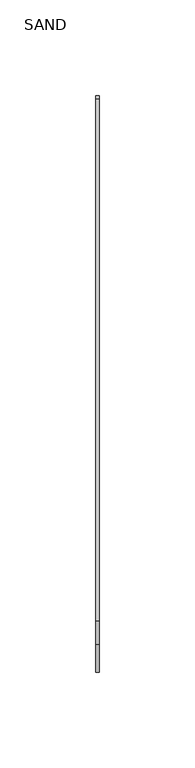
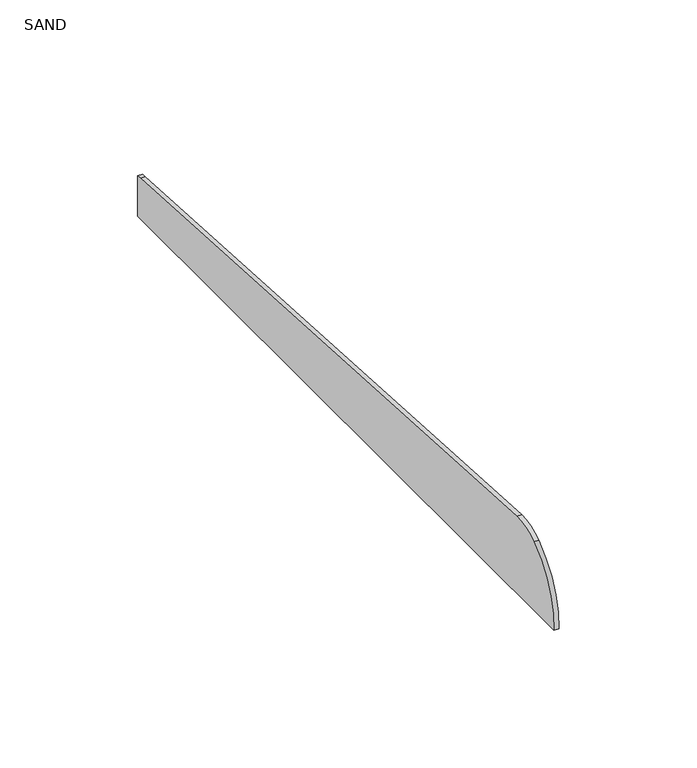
"""IFC4 building model written with IfcOpenShell, lengths in millimetres: proxy geometry, PORTOBELLO - BORDA MONOLITH POOL SAND 30X60 EXT BOLD : SAND."""

from ifc_helpers import new_model, si_unit, point, frame, frame_2d, origin, place, context, project, spatial, polyline, circle_curve, trimmed, segment, composite_curve, outline, extrude, source, transform, mapped, element, save


def sand_0a74e251(model_context):
    return source(origin(), model_context, "Body", "SweptSolid", [
        extrude(outline(composite_curve([segment(trimmed(circle_curve(frame_2d((36.3042136, -16.7149341)), 36.3269503), [point((0.0, -18.0000002))], [point((14.4065842, 12.2702543))], False, "CARTESIAN"), True, "CONTINUOUS"), segment(trimmed(circle_curve(frame_2d((25.7546622, -2.7508318)), 18.8258307), [point((14.4065842, 12.2702543))], [point((26.8584705, 16.0426114))], False, "CARTESIAN"), True, "CONTINUOUS"), segment(polyline([(26.8584705, 16.0426114), (300.0, 0.0), (302.0, 0.0), (302.0, -18.0000002), (0.0, -18.0000002)]), True, "CONTINUOUS")], self_intersect=False)), frame((1758.5198785, 0.0, 0.0), z_axis=(1.0, 0.0, 0.0), x_axis=(0.0, 1.0, 0.0)), (0.0, 0.0, 1.0), 2.0),
    ])


if __name__ == "__main__":
    model = new_model("IFC4")
    model_context = context("Model", 3, world=origin())
    ifc_project = project(units=[si_unit("LENGTHUNIT", "METRE", prefix="MILLI")], contexts=[model_context])
    site = spatial("IfcSite", under=ifc_project)
    building = spatial("IfcBuilding", under=site)
    placement = place(None, origin())
    sand_shape = sand_0a74e251(model_context)
    element("IfcBuildingElementProxy", 1, Name="PORTOBELLO - BORDA MONOLITH POOL SAND 30X60 EXT BOLD : SAND", ObjectType="PORTOBELLO - BORDA MONOLITH POOL SAND 30X60 EXT BOLD : SAND", at=placement, inside=building, context=model_context, shape_type="MappedRepresentation", body=[
        mapped(sand_shape, transform((0.0, 0.0, 0.0), x_axis=(1.0, 0.0, 0.0), y_axis=(0.0, 1.0, 0.0), z_axis=(0.0, 0.0, 1.0))),
    ])
    save(model, "model.ifc")
